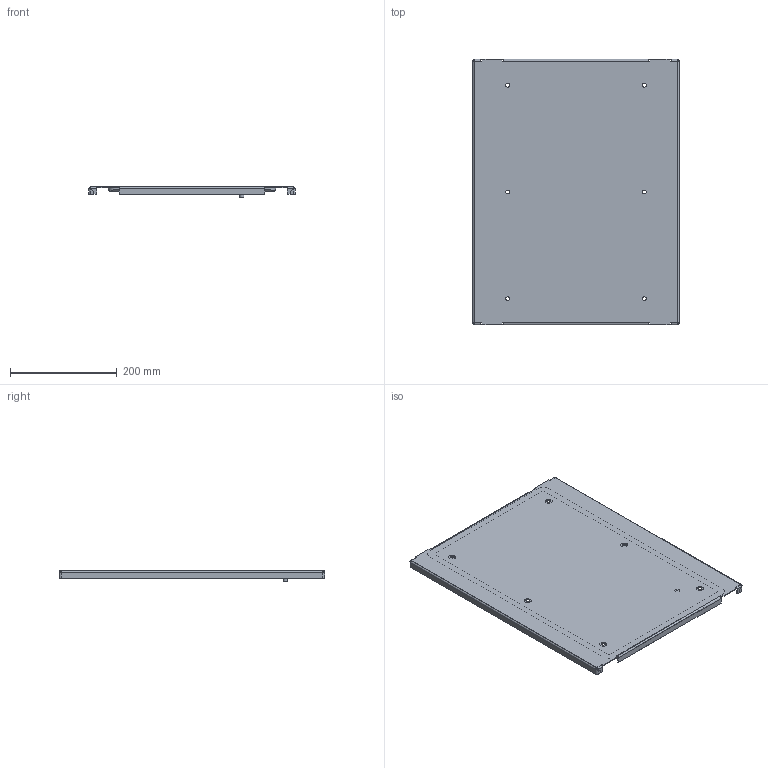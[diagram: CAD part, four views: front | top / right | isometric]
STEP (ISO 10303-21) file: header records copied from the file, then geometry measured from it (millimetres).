
FILE_DESCRIPTION(('STEP AP203'), '1');
FILE_NAME('Ïàíåëü ëèöåâàÿ ãëóõàÿ 500õ400 ìì OptiBox M 419496 ÊÝÀÇ', '', ('UNSPECIFIED'), ('UNSPECIFIED'), 'C3D Converter', 'C3D Toolkit', '');
FILE_SCHEMA(('CONFIG_CONTROL_DESIGN'));
Length unit declared in the file: millimetre
Bounding box: 386.4 x 497 x 18.9 mm (x, y, z)
Volume: 403904.5 mm3; surface area: 475178.1 mm2
Topology: 3 solids, 3 shells, 174 faces, 397 edges, 238 vertices
Faces by surface type: plane 111, cylinder 55, bspline 8
Full cylindrical faces by diameter (mm): 0.75 x1, 1 x1, 5 x2, 7.3 x6, 8 x1, 9.3 x1, 13 x1, 13.5 x6
Entity records: 5888 total; most frequent: CARTESIAN_POINT 2027, ORIENTED_EDGE 756, DIRECTION 754, EDGE_CURVE 378, LINE 264, VECTOR 264, AXIS2_PLACEMENT_3D 245, VERTEX_POINT 238
